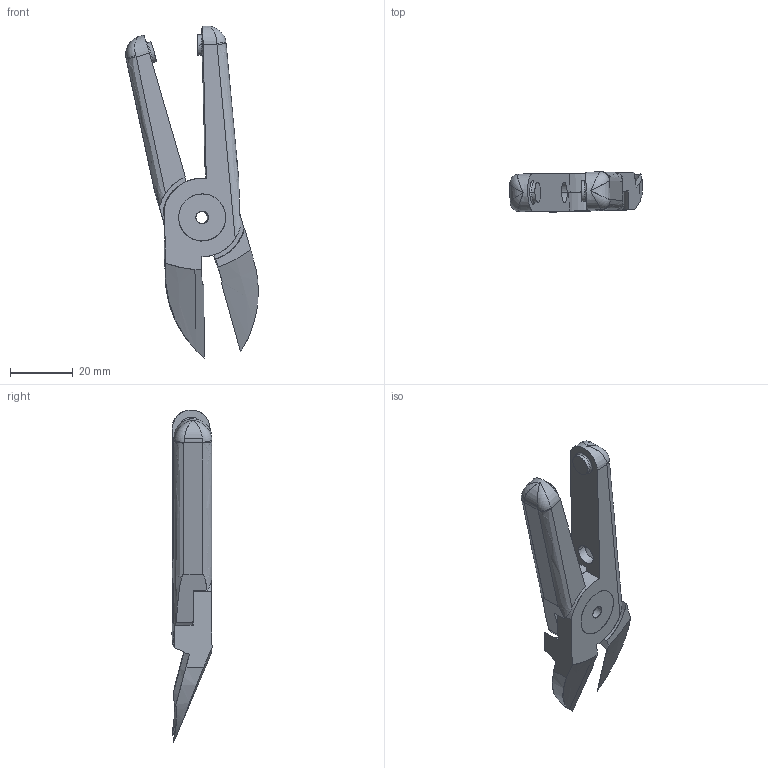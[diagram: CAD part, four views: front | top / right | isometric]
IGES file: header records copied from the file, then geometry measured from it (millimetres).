
Start section: SolidWorks IGES file using analytic representation for surfaces
Global section: file name: P:\DRAWINGS\SALES DWG FILE\Format (IGIS) 3D\N20AA27.IGS; native system: SolidWorks 2007; preprocessor: SolidWorks 2007; author: larry; date: 080108.152840; units: millimetre
Bounding box: 42.31 x 12.76 x 105.83 mm (x, y, z)
Surface area: 10029.4 mm2 (no closed solid volume)
Topology: 0 solids, 0 shells, 105 faces, 1236 edges, 1228 vertices
Faces by surface type: bspline 57, revolution 48
